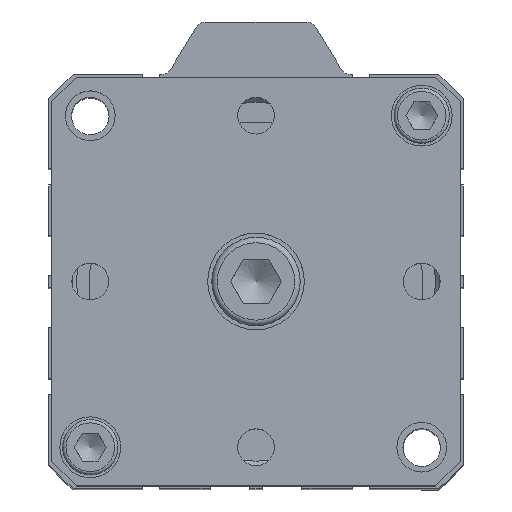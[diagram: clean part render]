
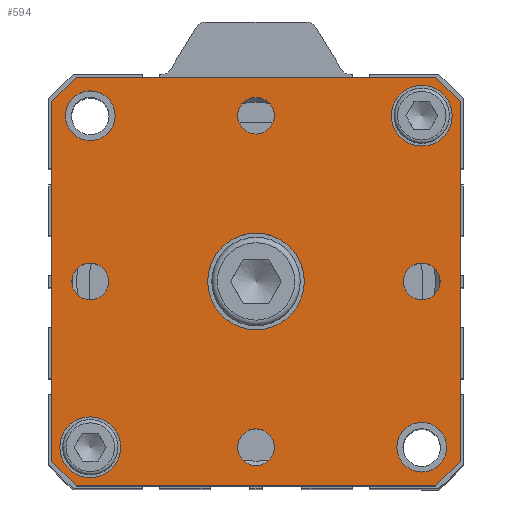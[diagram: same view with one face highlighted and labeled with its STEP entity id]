
A CAD part, top view. The second image highlights one B-rep face of the part: STEP entity #594.
In plain terms, the highlighted planar face has unit normal (0, 0, 1).
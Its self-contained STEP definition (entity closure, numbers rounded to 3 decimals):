
#196=CARTESIAN_POINT('',(32.859,35.684,140.5));
#197=VERTEX_POINT('',#196);
#198=CARTESIAN_POINT('',(37.359,31.184,140.5));
#199=VERTEX_POINT('',#198);
#200=CARTESIAN_POINT('',(32.859,35.684,140.5));
#201=DIRECTION('',(0.707,-0.707,0.0));
#202=VECTOR('',#201,6.364);
#203=LINE('',#200,#202);
#204=EDGE_CURVE('',#197,#199,#203,.T.);
#383=CARTESIAN_POINT('',(37.359,-33.816,140.5));
#384=VERTEX_POINT('',#383);
#385=CARTESIAN_POINT('',(37.359,31.184,140.5));
#386=DIRECTION('',(0.0,-1.0,0.0));
#387=VECTOR('',#386,65.);
#388=LINE('',#385,#387);
#389=EDGE_CURVE('',#199,#384,#388,.T.);
#406=CARTESIAN_POINT('',(32.859,-38.316,140.5));
#407=VERTEX_POINT('',#406);
#408=CARTESIAN_POINT('',(37.359,-33.816,140.5));
#409=DIRECTION('',(-0.707,-0.707,0.0));
#410=VECTOR('',#409,6.364);
#411=LINE('',#408,#410);
#412=EDGE_CURVE('',#384,#407,#411,.T.);
#430=CARTESIAN_POINT('',(-36.641,31.184,140.5));
#431=VERTEX_POINT('',#430);
#432=CARTESIAN_POINT('',(-32.141,35.684,140.5));
#433=VERTEX_POINT('',#432);
#434=CARTESIAN_POINT('',(-36.641,31.184,140.5));
#435=DIRECTION('',(0.707,0.707,0.0));
#436=VECTOR('',#435,6.364);
#437=LINE('',#434,#436);
#438=EDGE_CURVE('',#431,#433,#437,.T.);
#456=CARTESIAN_POINT('',(0.359,-1.316,140.5));
#457=DIRECTION('',(0.0,0.0,1.0));
#458=DIRECTION('',(1.0,0.0,0.0));
#459=AXIS2_PLACEMENT_3D('',#456,#457,#458);
#460=PLANE('',#459);
#461=ORIENTED_EDGE('',*,*,#204,.F.);
#462=CARTESIAN_POINT('',(-32.141,35.684,140.5));
#463=DIRECTION('',(1.0,0.0,0.0));
#464=VECTOR('',#463,65.0);
#465=LINE('',#462,#464);
#466=EDGE_CURVE('',#433,#197,#465,.T.);
#467=ORIENTED_EDGE('',*,*,#466,.F.);
#468=ORIENTED_EDGE('',*,*,#438,.F.);
#469=CARTESIAN_POINT('',(-36.641,-33.816,140.5));
#470=VERTEX_POINT('',#469);
#471=CARTESIAN_POINT('',(-36.641,-33.816,140.5));
#472=DIRECTION('',(0.0,1.0,0.0));
#473=VECTOR('',#472,65.0);
#474=LINE('',#471,#473);
#475=EDGE_CURVE('',#470,#431,#474,.T.);
#476=ORIENTED_EDGE('',*,*,#475,.F.);
#477=CARTESIAN_POINT('',(-32.141,-38.316,140.5));
#478=VERTEX_POINT('',#477);
#479=CARTESIAN_POINT('',(-32.141,-38.316,140.5));
#480=DIRECTION('',(-0.707,0.707,0.0));
#481=VECTOR('',#480,6.364);
#482=LINE('',#479,#481);
#483=EDGE_CURVE('',#478,#470,#482,.T.);
#484=ORIENTED_EDGE('',*,*,#483,.F.);
#485=CARTESIAN_POINT('',(32.859,-38.316,140.5));
#486=DIRECTION('',(-1.0,0.0,0.0));
#487=VECTOR('',#486,65.0);
#488=LINE('',#485,#487);
#489=EDGE_CURVE('',#407,#478,#488,.T.);
#490=ORIENTED_EDGE('',*,*,#489,.F.);
#491=ORIENTED_EDGE('',*,*,#412,.F.);
#492=ORIENTED_EDGE('',*,*,#389,.F.);
#493=EDGE_LOOP('',(#461,#467,#468,#476,#484,#490,#491,#492));
#494=FACE_OUTER_BOUND('',#493,.T.);
#495=CARTESIAN_POINT('',(9.109,-1.316,140.5));
#496=VERTEX_POINT('',#495);
#497=CARTESIAN_POINT('',(0.359,-1.316,140.5));
#498=DIRECTION('',(0.0,0.0,-1.0));
#499=DIRECTION('',(1.0,0.0,0.0));
#500=AXIS2_PLACEMENT_3D('',#497,#498,#499);
#501=CIRCLE('',#500,8.75);
#502=EDGE_CURVE('',#496,#496,#501,.T.);
#503=ORIENTED_EDGE('',*,*,#502,.T.);
#504=EDGE_LOOP('',(#503));
#505=FACE_BOUND('',#504,.T.);
#506=CARTESIAN_POINT('',(-24.141,-31.316,140.5));
#507=VERTEX_POINT('',#506);
#508=CARTESIAN_POINT('',(-29.641,-31.316,140.5));
#509=DIRECTION('',(0.0,0.0,-1.0));
#510=DIRECTION('',(1.0,0.0,0.0));
#511=AXIS2_PLACEMENT_3D('',#508,#509,#510);
#512=CIRCLE('',#511,5.5);
#513=EDGE_CURVE('',#507,#507,#512,.T.);
#514=ORIENTED_EDGE('',*,*,#513,.T.);
#515=EDGE_LOOP('',(#514));
#516=FACE_BOUND('',#515,.T.);
#517=CARTESIAN_POINT('',(35.859,28.684,140.5));
#518=VERTEX_POINT('',#517);
#519=CARTESIAN_POINT('',(30.359,28.684,140.5));
#520=DIRECTION('',(0.0,0.0,-1.0));
#521=DIRECTION('',(1.0,0.0,0.0));
#522=AXIS2_PLACEMENT_3D('',#519,#520,#521);
#523=CIRCLE('',#522,5.5);
#524=EDGE_CURVE('',#518,#518,#523,.T.);
#525=ORIENTED_EDGE('',*,*,#524,.T.);
#526=EDGE_LOOP('',(#525));
#527=FACE_BOUND('',#526,.T.);
#528=CARTESIAN_POINT('',(33.682,-1.316,140.5));
#529=VERTEX_POINT('',#528);
#530=CARTESIAN_POINT('',(30.359,-1.316,140.5));
#531=DIRECTION('',(0.0,0.0,-1.0));
#532=DIRECTION('',(1.0,0.0,0.0));
#533=AXIS2_PLACEMENT_3D('',#530,#531,#532);
#534=CIRCLE('',#533,3.324);
#535=EDGE_CURVE('',#529,#529,#534,.T.);
#536=ORIENTED_EDGE('',*,*,#535,.T.);
#537=EDGE_LOOP('',(#536));
#538=FACE_BOUND('',#537,.T.);
#539=CARTESIAN_POINT('',(3.682,-31.316,140.5));
#540=VERTEX_POINT('',#539);
#541=CARTESIAN_POINT('',(0.359,-31.316,140.5));
#542=DIRECTION('',(0.0,0.0,-1.0));
#543=DIRECTION('',(1.0,0.0,0.0));
#544=AXIS2_PLACEMENT_3D('',#541,#542,#543);
#545=CIRCLE('',#544,3.324);
#546=EDGE_CURVE('',#540,#540,#545,.T.);
#547=ORIENTED_EDGE('',*,*,#546,.T.);
#548=EDGE_LOOP('',(#547));
#549=FACE_BOUND('',#548,.T.);
#550=CARTESIAN_POINT('',(-26.318,-1.316,140.5));
#551=VERTEX_POINT('',#550);
#552=CARTESIAN_POINT('',(-29.641,-1.316,140.5));
#553=DIRECTION('',(0.0,0.0,-1.0));
#554=DIRECTION('',(1.0,0.0,0.0));
#555=AXIS2_PLACEMENT_3D('',#552,#553,#554);
#556=CIRCLE('',#555,3.324);
#557=EDGE_CURVE('',#551,#551,#556,.T.);
#558=ORIENTED_EDGE('',*,*,#557,.T.);
#559=EDGE_LOOP('',(#558));
#560=FACE_BOUND('',#559,.T.);
#561=CARTESIAN_POINT('',(3.682,28.684,140.5));
#562=VERTEX_POINT('',#561);
#563=CARTESIAN_POINT('',(0.359,28.684,140.5));
#564=DIRECTION('',(0.0,0.0,-1.0));
#565=DIRECTION('',(1.0,0.0,0.0));
#566=AXIS2_PLACEMENT_3D('',#563,#564,#565);
#567=CIRCLE('',#566,3.324);
#568=EDGE_CURVE('',#562,#562,#567,.T.);
#569=ORIENTED_EDGE('',*,*,#568,.T.);
#570=EDGE_LOOP('',(#569));
#571=FACE_BOUND('',#570,.T.);
#572=CARTESIAN_POINT('',(34.859,-31.316,140.5));
#573=VERTEX_POINT('',#572);
#574=CARTESIAN_POINT('',(30.359,-31.316,140.5));
#575=DIRECTION('',(0.0,0.0,-1.0));
#576=DIRECTION('',(-1.0,0.0,0.0));
#577=AXIS2_PLACEMENT_3D('',#574,#575,#576);
#578=CIRCLE('',#577,4.5);
#579=EDGE_CURVE('',#573,#573,#578,.T.);
#580=ORIENTED_EDGE('',*,*,#579,.T.);
#581=EDGE_LOOP('',(#580));
#582=FACE_BOUND('',#581,.T.);
#583=CARTESIAN_POINT('',(-25.141,28.684,140.5));
#584=VERTEX_POINT('',#583);
#585=CARTESIAN_POINT('',(-29.641,28.684,140.5));
#586=DIRECTION('',(0.0,0.0,-1.0));
#587=DIRECTION('',(-1.0,0.0,0.0));
#588=AXIS2_PLACEMENT_3D('',#585,#586,#587);
#589=CIRCLE('',#588,4.5);
#590=EDGE_CURVE('',#584,#584,#589,.T.);
#591=ORIENTED_EDGE('',*,*,#590,.T.);
#592=EDGE_LOOP('',(#591));
#593=FACE_BOUND('',#592,.T.);
#594=ADVANCED_FACE('',(#494,#505,#516,#527,#538,#549,#560,#571,#582,#593),#460,.T.);
